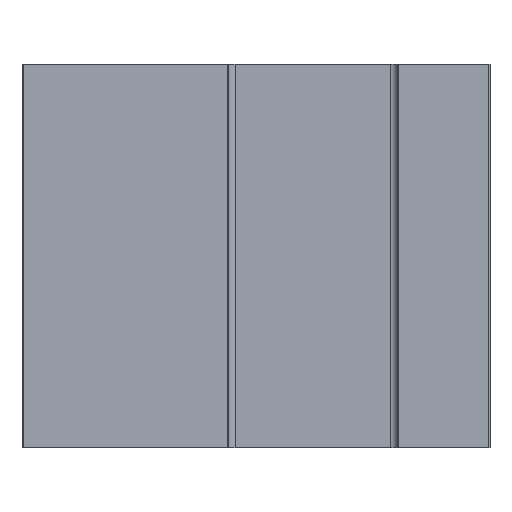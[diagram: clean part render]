
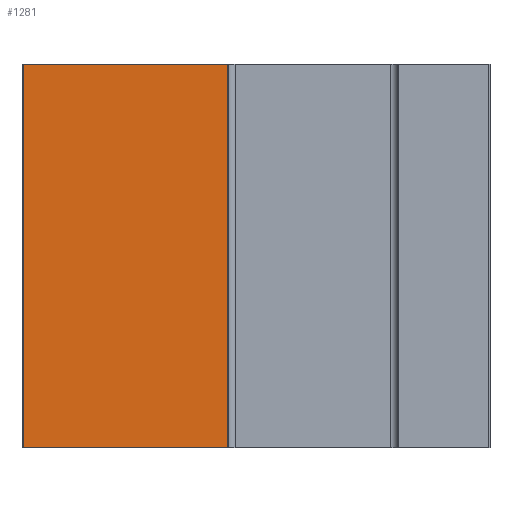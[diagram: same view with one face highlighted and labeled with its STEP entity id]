
A CAD part, front view. The second image highlights one B-rep face of the part: STEP entity #1281.
In plain terms, the highlighted planar face has unit normal (0, -1, 0).
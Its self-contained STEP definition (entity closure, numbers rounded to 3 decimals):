
#699 = VERTEX_POINT( '', #1816 );
#795 = VERTEX_POINT( '', #1923 );
#867 = VERTEX_POINT( '', #2005 );
#1273 = EDGE_CURVE( '', #699, #1423, #2465, .T. );
#1281 = ADVANCED_FACE( '', ( #2473 ), #2474, .T. );
#1423 = VERTEX_POINT( '', #2635 );
#1507 = EDGE_CURVE( '', #1423, #795, #2727, .T. );
#1511 = EDGE_CURVE( '', #867, #795, #2731, .T. );
#1541 = EDGE_CURVE( '', #699, #867, #2765, .T. );
#1816 = CARTESIAN_POINT( '', ( -25.7, 0., 0. ) );
#1923 = CARTESIAN_POINT( '', ( -7.6, 0., -34. ) );
#2005 = CARTESIAN_POINT( '', ( -7.6, 0., 0. ) );
#2465 = LINE( '', #3987, #3988 );
#2473 = FACE_OUTER_BOUND( '', #4001, .T. );
#2474 = PLANE( '', #4002 );
#2635 = CARTESIAN_POINT( '', ( -25.7, 0., -34. ) );
#2727 = LINE( '', #4338, #4339 );
#2731 = LINE( '', #4345, #4346 );
#2765 = LINE( '', #4394, #4395 );
#3987 = CARTESIAN_POINT( '', ( -25.7, 0., 0. ) );
#3988 = VECTOR( '', #5486, 1. );
#4001 = EDGE_LOOP( '', ( #5493, #5494, #5495, #5496 ) );
#4002 = AXIS2_PLACEMENT_3D( '', #5497, #5498, #5499 );
#4338 = CARTESIAN_POINT( '', ( -25.7, 0., -34. ) );
#4339 = VECTOR( '', #5778, 1. );
#4345 = CARTESIAN_POINT( '', ( -7.6, 0., 0. ) );
#4346 = VECTOR( '', #5782, 1. );
#4394 = CARTESIAN_POINT( '', ( -25.7, 0., 0. ) );
#4395 = VECTOR( '', #5820, 1. );
#5486 = DIRECTION( '', ( 0., 0., -1. ) );
#5493 = ORIENTED_EDGE( '', *, *, #1507, .T. );
#5494 = ORIENTED_EDGE( '', *, *, #1511, .F. );
#5495 = ORIENTED_EDGE( '', *, *, #1541, .F. );
#5496 = ORIENTED_EDGE( '', *, *, #1273, .T. );
#5497 = CARTESIAN_POINT( '', ( -25.7, 0., 0. ) );
#5498 = DIRECTION( '', ( 0., -1., 0. ) );
#5499 = DIRECTION( '', ( -1., 0., 0. ) );
#5778 = DIRECTION( '', ( 1., 0., 0. ) );
#5782 = DIRECTION( '', ( 0., 0., -1. ) );
#5820 = DIRECTION( '', ( 1., 0., 0. ) );
